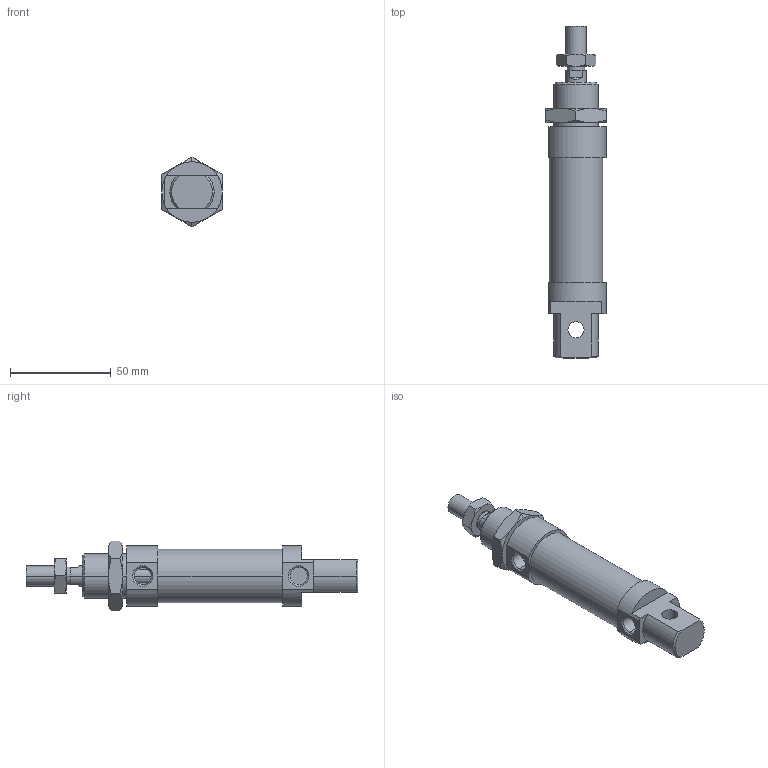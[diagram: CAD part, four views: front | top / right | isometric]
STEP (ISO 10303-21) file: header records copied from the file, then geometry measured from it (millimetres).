
FILE_DESCRIPTION((''),'2;1');
FILE_NAME('I:\DOC-EDP\Lib-3d\1200\CILINDRI\1280\1280_25_0025.stp','2003-04-07T17:59:48',('maffial1'),(''),'Autodesk Inventor (R) 6.0','Autodesk Inventor (R) 6.0','');
FILE_SCHEMA(('AUTOMOTIVE_DESIGN { 1 0 10303 214 1 1 1 1 }'));
Length unit declared in the file: millimetre
Products named in the file (5): 1280_25_0025; S1280_25_25; 1200_25_05; 1200_25_06; C1280_25_25
Assembly tree (4 placements, depth 2):
  1280_25_0025
    S1280_25_25
    1200_25_05
    1200_25_06
    C1280_25_25
Bounding box: 30 x 165 x 34.64 mm (x, y, z)
Volume: 73875.8 mm3; surface area: 21078.1 mm2
Topology: 4 solids, 4 shells, 124 faces, 281 edges, 170 vertices
Faces by surface type: plane 41, cone 40, cylinder 22, bspline 21
Entity records: 3808 total; most frequent: CARTESIAN_POINT 1031, DIRECTION 573, ORIENTED_EDGE 562, EDGE_CURVE 281, AXIS2_PLACEMENT_3D 236, VERTEX_POINT 170, EDGE_LOOP 137, FACE_OUTER_BOUND 124
